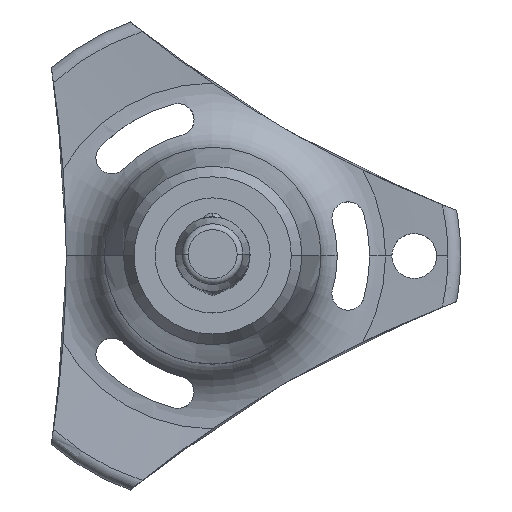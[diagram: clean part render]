
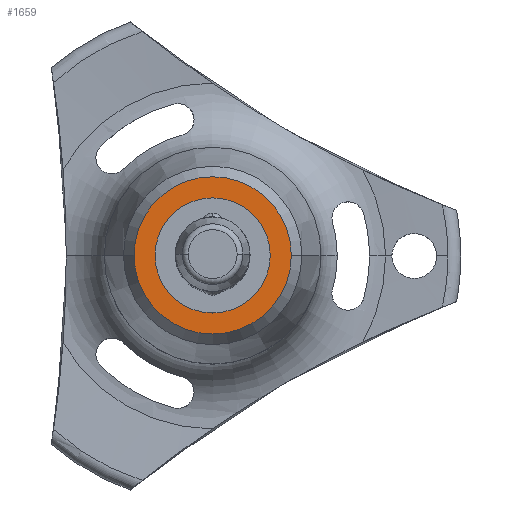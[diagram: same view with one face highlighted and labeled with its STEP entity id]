
A CAD part, top view. The second image highlights one B-rep face of the part: STEP entity #1659.
In plain terms, the highlighted planar face has unit normal (0, 0, 1).
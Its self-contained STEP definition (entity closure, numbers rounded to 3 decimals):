
#11 = CIRCLE ( 'NONE', #961, 5.262 ) ;
#145 = CIRCLE ( 'NONE', #2033, 3.852 ) ;
#186 = DIRECTION ( 'NONE',  ( -1., 0., 0. ) ) ;
#323 = CARTESIAN_POINT ( 'NONE',  ( -5.262, 0., -45.4 ) ) ;
#364 = CARTESIAN_POINT ( 'NONE',  ( 0., 0., -45.4 ) ) ;
#589 = CARTESIAN_POINT ( 'NONE',  ( 5.262, 0., -45.4 ) ) ;
#647 = CARTESIAN_POINT ( 'NONE',  ( 0., 3.852, -45.4 ) ) ;
#713 = ORIENTED_EDGE ( 'NONE', *, *, #1915, .F. ) ;
#742 = ORIENTED_EDGE ( 'NONE', *, *, #2040, .T. ) ;
#829 = CIRCLE ( 'NONE', #2388, 3.852 ) ;
#855 = FACE_OUTER_BOUND ( 'NONE', #2776, .T. ) ;
#903 = CARTESIAN_POINT ( 'NONE',  ( 3.852, 0., -45.4 ) ) ;
#961 = AXIS2_PLACEMENT_3D ( 'NONE', #1705, #2515, #2332 ) ;
#1077 = ORIENTED_EDGE ( 'NONE', *, *, #2067, .F. ) ;
#1094 = CIRCLE ( 'NONE', #2164, 5.262 ) ;
#1214 = VERTEX_POINT ( 'NONE', #323 ) ;
#1388 = CARTESIAN_POINT ( 'NONE',  ( 0., 0., -45.4 ) ) ;
#1501 = PLANE ( 'NONE',  #2115 ) ;
#1508 = ORIENTED_EDGE ( 'NONE', *, *, #2321, .T. ) ;
#1573 = DIRECTION ( 'NONE',  ( -1., 0., 0. ) ) ;
#1605 = CARTESIAN_POINT ( 'NONE',  ( 0., 0., -45.4 ) ) ;
#1659 = ADVANCED_FACE ( 'NONE', ( #2728, #855 ), #1501, .T. ) ;
#1705 = CARTESIAN_POINT ( 'NONE',  ( 0., 0., -45.4 ) ) ;
#1915 = EDGE_CURVE ( 'NONE', #2501, #1214, #1094, .T. ) ;
#2027 = DIRECTION ( 'NONE',  ( 0., 0., -1. ) ) ;
#2033 = AXIS2_PLACEMENT_3D ( 'NONE', #364, #2532, #186 ) ;
#2040 = EDGE_CURVE ( 'NONE', #2712, #2696, #145, .T. ) ;
#2044 = DIRECTION ( 'NONE',  ( -1., 0., 0. ) ) ;
#2067 = EDGE_CURVE ( 'NONE', #1214, #2501, #11, .T. ) ;
#2073 = EDGE_LOOP ( 'NONE', ( #742, #1508 ) ) ;
#2115 = AXIS2_PLACEMENT_3D ( 'NONE', #647, #2129, #2717 ) ;
#2129 = DIRECTION ( 'NONE',  ( 0., 0., 1. ) ) ;
#2164 = AXIS2_PLACEMENT_3D ( 'NONE', #1605, #2027, #2044 ) ;
#2321 = EDGE_CURVE ( 'NONE', #2696, #2712, #829, .T. ) ;
#2332 = DIRECTION ( 'NONE',  ( -1., 0., 0. ) ) ;
#2388 = AXIS2_PLACEMENT_3D ( 'NONE', #1388, #2437, #1573 ) ;
#2405 = CARTESIAN_POINT ( 'NONE',  ( -3.852, 0., -45.4 ) ) ;
#2437 = DIRECTION ( 'NONE',  ( 0., 0., -1. ) ) ;
#2501 = VERTEX_POINT ( 'NONE', #589 ) ;
#2515 = DIRECTION ( 'NONE',  ( 0., 0., -1. ) ) ;
#2532 = DIRECTION ( 'NONE',  ( 0., 0., -1. ) ) ;
#2696 = VERTEX_POINT ( 'NONE', #903 ) ;
#2712 = VERTEX_POINT ( 'NONE', #2405 ) ;
#2717 = DIRECTION ( 'NONE',  ( 1., 0., 0. ) ) ;
#2728 = FACE_BOUND ( 'NONE', #2073, .T. ) ;
#2776 = EDGE_LOOP ( 'NONE', ( #1077, #713 ) ) ;
